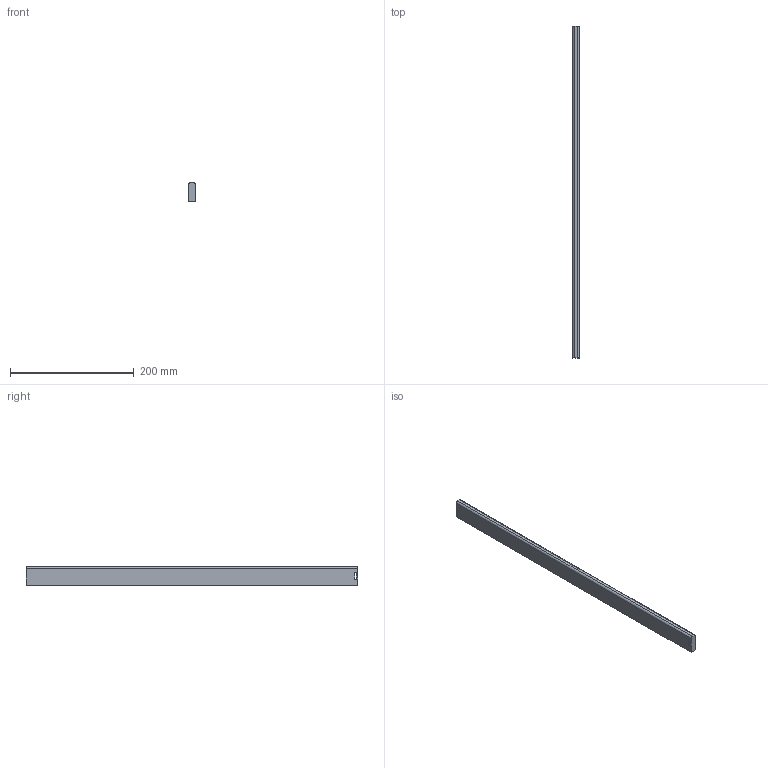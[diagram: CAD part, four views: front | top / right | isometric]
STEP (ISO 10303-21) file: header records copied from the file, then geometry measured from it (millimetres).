
FILE_DESCRIPTION (( 'STEP AP214' ), '1' );
FILE_NAME ('_Seitenreling_S760605500_RL535,5.step', '2010-09-06T14:51:28', ( 'grass' ), ( '' ), 'SwSTEP 2.0', 'SolidWorks 2010', '' );
FILE_SCHEMA (( 'AUTOMOTIVE_DESIGN' ));
Length unit declared in the file: millimetre
Products named in the file (1): _Seitenreling_S760605500_RL535,5
Bounding box: 10.5 x 535.5 x 30 mm (x, y, z)
Volume: 166375.2 mm3; surface area: 42830.9 mm2
Topology: 1 solids, 1 shells, 12 faces, 30 edges, 20 vertices
Faces by surface type: plane 8, cylinder 4
Entity records: 400 total; most frequent: DIRECTION 64, CARTESIAN_POINT 63, ORIENTED_EDGE 60, EDGE_CURVE 30, LINE 22, VECTOR 22, AXIS2_PLACEMENT_3D 21, VERTEX_POINT 20
